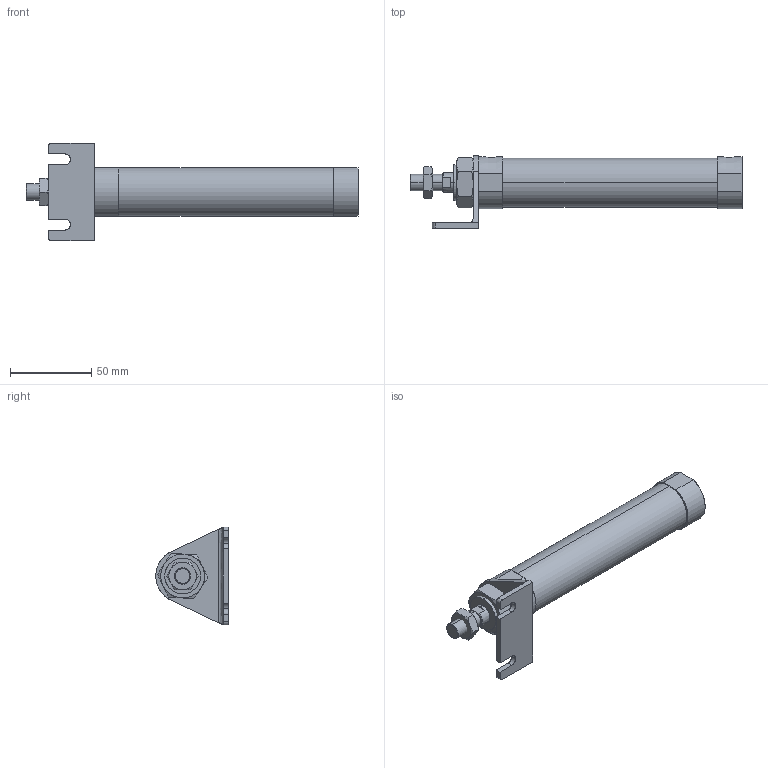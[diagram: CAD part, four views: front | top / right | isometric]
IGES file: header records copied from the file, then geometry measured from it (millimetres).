
Start section: SolidWorks IGES file using analytic representation for surfaces
Global section: file name: C:\Users\Toshiba\Desktop\JGND2-25-100-L.IGS; native system: SolidWorks 2014; preprocessor: SolidWorks 2014; author: Toshiba; date: 160804.103928; units: millimetre
Bounding box: 204 x 44.5 x 60 mm (x, y, z)
Surface area: 29839.3 mm2 (no closed solid volume)
Topology: 0 solids, 0 shells, 115 faces, 1928 edges, 1924 vertices
Faces by surface type: bspline 74, revolution 41
